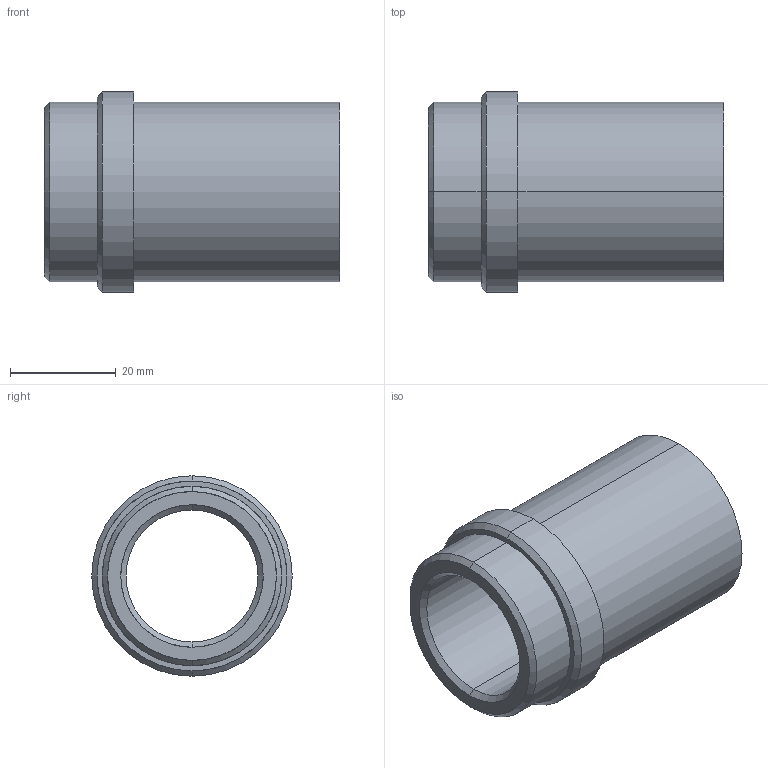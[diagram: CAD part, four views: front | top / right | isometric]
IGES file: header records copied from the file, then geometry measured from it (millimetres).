
Start section: START RECORD GO HERE.
Global section: file name: 358-25x56.igs; native system: DASSAULT SYSTEMES CATIA V5 R20 - www.3ds.com; preprocessor: CATIA Version 5 Release 20 ; author: Utente; organization: NB04-ASUS; date: 20210409.152205; units: millimetre
Bounding box: 56 x 38 x 38 mm (x, y, z)
Surface area: 11508.8 mm2 (no closed solid volume)
Topology: 0 solids, 0 shells, 20 faces, 128 edges, 128 vertices
Faces by surface type: revolution 16, plane 4
